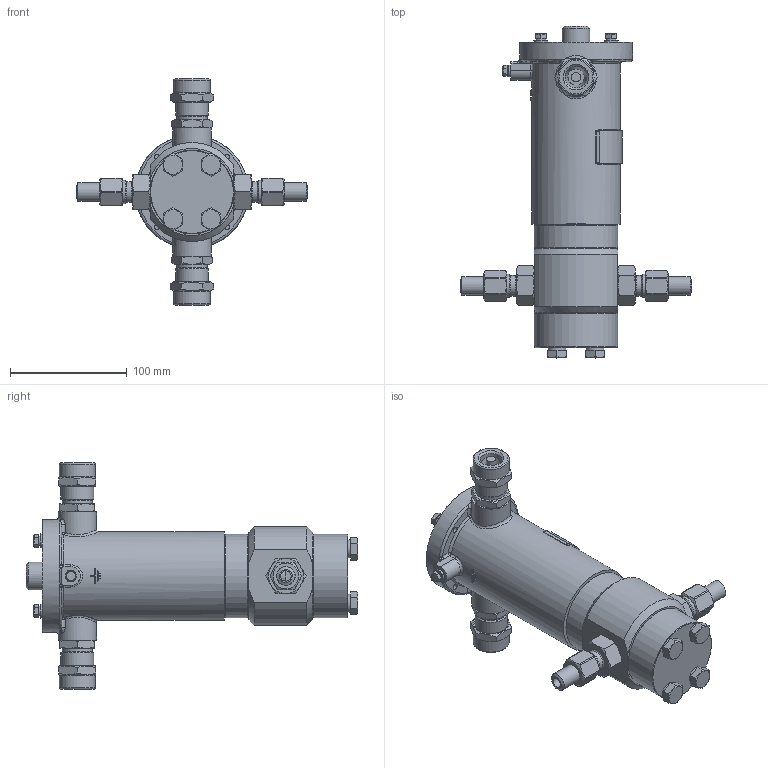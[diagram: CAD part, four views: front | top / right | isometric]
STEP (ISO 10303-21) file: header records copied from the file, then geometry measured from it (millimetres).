
FILE_DESCRIPTION(('STEP AP203'), '1');
FILE_NAME('ÑÅÍÑ-ÏÐ DN10PN250-ÍÎ-ÑÂ-G1_2-1.stp', '2018-10-23T08:46:35', ('Îðëîâ Å.Â.'), ('ÎÎÎ ÍÏÏ Ñåíñîð'), 'ASCON STEP Converter 1.3', 'Kompas 3D', '');
FILE_SCHEMA(('CONFIG_CONTROL_DESIGN','SUPPORT_RESOURCE_SCHEMA'));
Length unit declared in the file: millimetre
Products named in the file (1): 2
Bounding box: 198.56 x 284.9 x 194 mm (x, y, z)
Volume: 859897.8 mm3; surface area: 239302.3 mm2
Topology: 3 solids, 25 shells, 1909 faces, 5021 edges, 3267 vertices
Faces by surface type: cylinder 961, plane 708, cone 165, torus 30, bspline 29, extrusion 16
Full cylindrical faces by diameter (mm): 3.3 x2, 3.5 x2, 4.134 x1, 4.917 x4, 5 x1, 6 x7, 6.1 x1, 6.5 x4, 8 x4, 8.376 x4, 9 x3, 10 x5, 11 x6, 12 x4, 13 x2, 14 x2, 15 x1, 15.8 x2, 16 x2, 17 x2, 17.8 x2, 18 x2, 18.376 x2, 18.631 x4, 18.632 x2, 20 x5, 20.5 x2, 21.5 x1, 22 x2, 22.376 x2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
Entity records: 72357 total; most frequent: CARTESIAN_POINT 23998, DIRECTION 10526, ORIENTED_EDGE 10014, EDGE_CURVE 5007, AXIS2_PLACEMENT_3D 4062, VERTEX_POINT 3267, VECTOR 2402, LINE 2386
